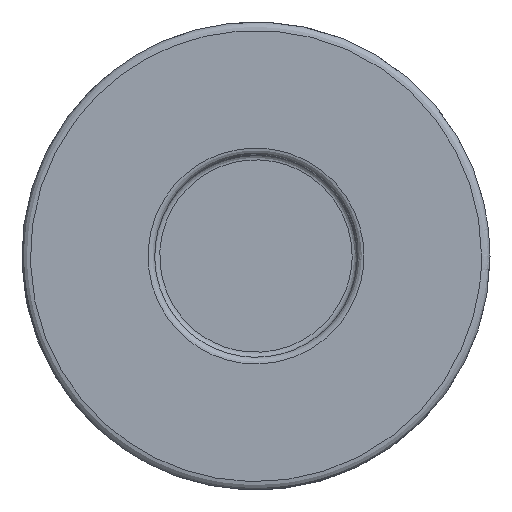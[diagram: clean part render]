
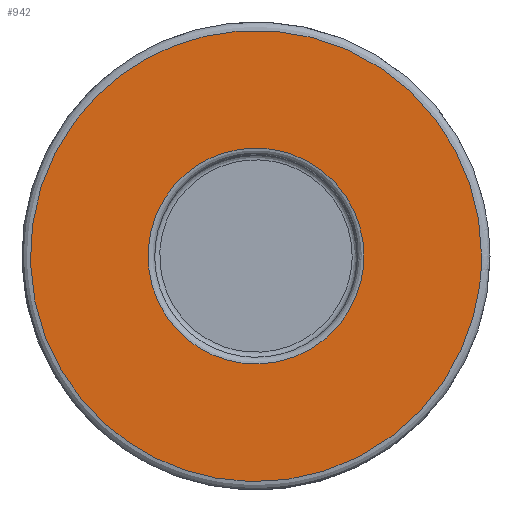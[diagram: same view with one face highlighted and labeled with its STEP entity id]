
A CAD part, front view. The second image highlights one B-rep face of the part: STEP entity #942.
In plain terms, the highlighted free-form (B-spline) face has degree [1, 1] with [2, 2] control points.
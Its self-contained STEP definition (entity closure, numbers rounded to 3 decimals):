
#876=CARTESIAN_POINT('V24',(16.0,0.,0.0));
#877=VERTEX_POINT('V24',#876);
#893=CARTESIAN_POINT('E37',(16.0,0.,0.0));
#894=CARTESIAN_POINT('E37',(16.0,0.,27.713)
   );
#895=CARTESIAN_POINT('E37',(-8.0,0.,13.856)
   );
#896=CARTESIAN_POINT('E37',(-32.0,0.,0.));
#897=CARTESIAN_POINT('E37',(-8.0,0.,-13.856)
   );
#898=CARTESIAN_POINT('E37',(16.0,0.,-27.713)
   );
#899=CARTESIAN_POINT('E37',(16.0,0.,0.0));
#907=(BOUNDED_CURVE()B_SPLINE_CURVE(2,(#893,#894,#895,#896,#897,
   #898,#899),.CIRCULAR_ARC.,.T.,.U.)B_SPLINE_CURVE_WITH_KNOTS((3,
   2,2,3),(0.0,26.488,52.976,
   79.464),.UNSPECIFIED.)CURVE()
   GEOMETRIC_REPRESENTATION_ITEM()RATIONAL_B_SPLINE_CURVE((1.0,
   0.5,1.0,0.5,1.0,0.5,1.0)
   )REPRESENTATION_ITEM('E37'));
#908=EDGE_CURVE('E37',#877,#877,#907,.T.);
#913=CARTESIAN_POINT('F18',(36.78,0.0,
   -36.78));
#914=CARTESIAN_POINT('F18',(36.78,0.0,
   36.78));
#915=CARTESIAN_POINT('F18',(-36.78,0.0,
   -36.78));
#916=CARTESIAN_POINT('F18',(-36.78,0.0,
   36.78));
#917=QUASI_UNIFORM_SURFACE('F18',1,1,((#913,#915),(#914,#916)),
   .PLANE_SURF.,.F.,.F.,.U.);
#918=CARTESIAN_POINT('V23',(33.436,0.0,0.0));
#919=VERTEX_POINT('V23',#918);
#920=CARTESIAN_POINT('E35',(33.436,0.0,0.0));
#921=CARTESIAN_POINT('E35',(33.436,0.0,
   57.913));
#922=CARTESIAN_POINT('E35',(-16.718,0.0,
   28.956));
#923=CARTESIAN_POINT('E35',(-66.872,0.0,0.)
   );
#924=CARTESIAN_POINT('E35',(-16.718,0.0,
   -28.956));
#925=CARTESIAN_POINT('E35',(33.436,0.0,
   -57.913));
#926=CARTESIAN_POINT('E35',(33.436,0.0,0.0));
#934=(BOUNDED_CURVE()B_SPLINE_CURVE(2,(#920,#921,#922,#923,#924,
   #925,#926),.CIRCULAR_ARC.,.T.,.U.)B_SPLINE_CURVE_WITH_KNOTS((3,
   2,2,3),(0.0,0.333,0.667,1.0),
   .UNSPECIFIED.)CURVE()GEOMETRIC_REPRESENTATION_ITEM()
   RATIONAL_B_SPLINE_CURVE((1.0,0.5,1.0,
   0.5,1.0,0.5,1.0))REPRESENTATION_ITEM(
   'E35'));
#935=EDGE_CURVE('E35',#919,#919,#934,.T.);
#936=ORIENTED_EDGE('E35',*,*,#935,.T.);
#937=EDGE_LOOP('F18',(#936));
#938=FACE_OUTER_BOUND('F18',#937,.T.);
#939=ORIENTED_EDGE('F19',*,*,#908,.F.);
#940=EDGE_LOOP('F18',(#939));
#941=FACE_BOUND('F18',#940,.T.);
#942=ADVANCED_FACE('F18',(#938,#941),#917,.T.);
